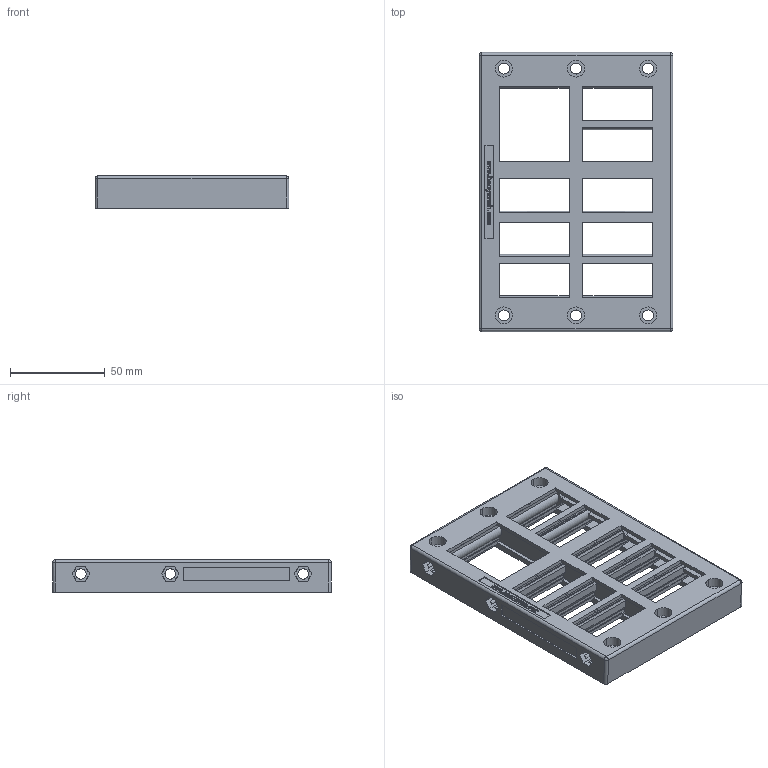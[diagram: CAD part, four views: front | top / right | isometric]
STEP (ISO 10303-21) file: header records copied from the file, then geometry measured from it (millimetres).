
FILE_DESCRIPTION((''),'2;1');
FILE_NAME('N10025','2025-06-06T10:11:45',('lyj'),(''),'CREO PARAMETRIC BY PTC INC, 2019010','CREO PARAMETRIC BY PTC INC, 2019010','');
FILE_SCHEMA(('CONFIG_CONTROL_DESIGN'));
Length unit declared in the file: millimetre
Products named in the file (1): N10025
Bounding box: 102 x 147 x 17 mm (x, y, z)
Volume: 95483.7 mm3; surface area: 64964.7 mm2
Topology: 1 solids, 10 shells, 1220 faces, 3531 edges, 2338 vertices
Faces by surface type: plane 749, cylinder 217, extrusion 106, cone 62, bspline 40, torus 26, sphere 20
Entity records: 43198 total; most frequent: CARTESIAN_POINT 11766, ORIENTED_EDGE 7022, DIRECTION 5695, EDGE_CURVE 3511, VECTOR 2575, LINE 2469, VERTEX_POINT 2338, AXIS2_PLACEMENT_3D 1560
